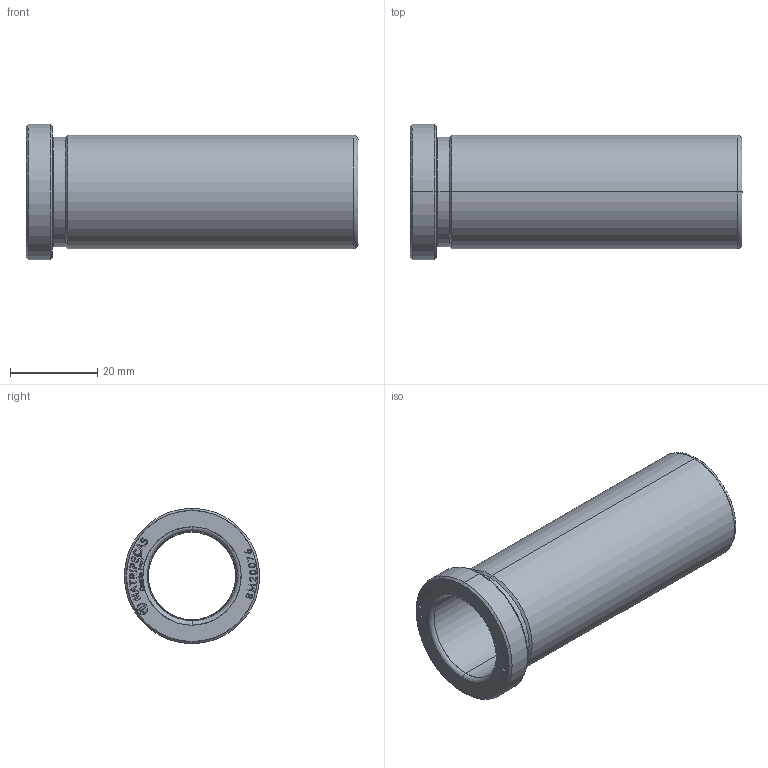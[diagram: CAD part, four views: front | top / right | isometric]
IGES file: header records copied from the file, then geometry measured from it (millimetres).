
Start section: SolidWorks IGES file using analytic representation for surfaces
Global section: file name: C:\Users\evers\OneDrive\Área de Trabalho\Trivector\MATRIPEÇAS\BM - BUCHA PRINCIPAL TIPO E31\BM20076.IGS; native system: SolidWorks 2024; preprocessor: SolidWorks 2024; author: evers; date: 260831.145357; units: millimetre
Bounding box: 76 x 31 x 31 mm (x, y, z)
Surface area: 11910.4 mm2 (no closed solid volume)
Topology: 0 solids, 0 shells, 401 faces, 4326 edges, 4326 vertices
Faces by surface type: bspline 372, revolution 29
